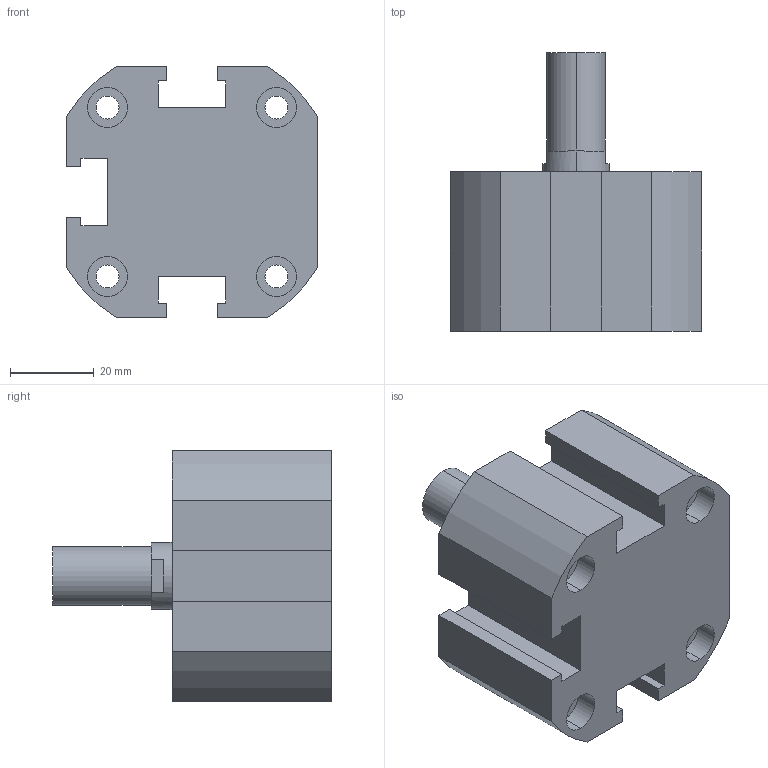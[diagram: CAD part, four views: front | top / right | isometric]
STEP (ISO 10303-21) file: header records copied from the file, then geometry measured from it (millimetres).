
FILE_DESCRIPTION (( 'STEP AP203' ), '1' );
FILE_NAME ('XC#M0-40-10.STEP', '2016-05-23T08:34:49', ( '' ), ( '' ), 'SwSTEP 2.0', 'SolidWorks 2014', '' );
FILE_SCHEMA (( 'CONFIG_CONTROL_DESIGN' ));
Length unit declared in the file: millimetre
Products named in the file (1): XC#M0-40-10
Bounding box: 60 x 66.5 x 60 mm (x, y, z)
Volume: 108630.7 mm3; surface area: 22137.9 mm2
Topology: 1 solids, 1 shells, 107 faces, 267 edges, 175 vertices
Faces by surface type: cylinder 52, plane 51, cone 4
Entity records: 3306 total; most frequent: DIRECTION 595, CARTESIAN_POINT 548, ORIENTED_EDGE 530, EDGE_CURVE 265, AXIS2_PLACEMENT_3D 222, VERTEX_POINT 175, VECTOR 151, LINE 151
